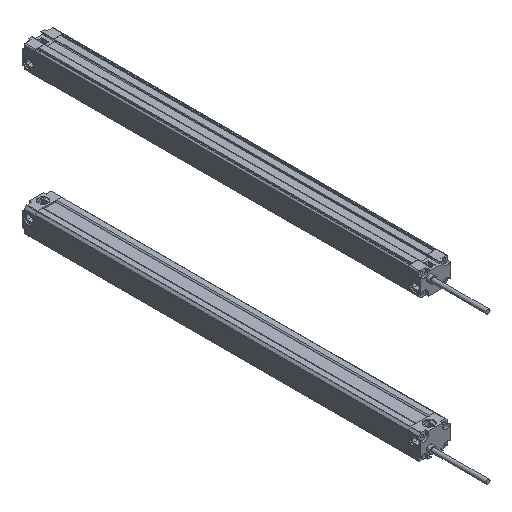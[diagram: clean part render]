
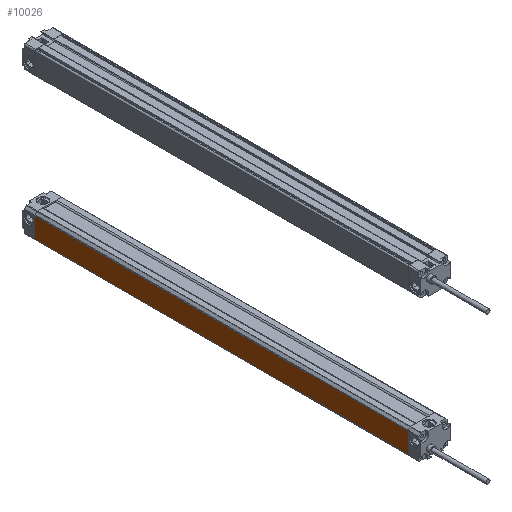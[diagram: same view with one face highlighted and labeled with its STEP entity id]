
A CAD part, isometric view. The second image highlights one B-rep face of the part: STEP entity #10026.
In plain terms, the highlighted planar face has unit normal (-1, 0, 0).
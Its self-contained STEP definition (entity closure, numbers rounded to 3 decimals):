
#272 = DIRECTION ( 'NONE',  ( 0., 1., 0. ) ) ;
#512 = VECTOR ( 'NONE', #9431, 1000. ) ;
#853 = LINE ( 'NONE', #6981, #2736 ) ;
#1186 = CARTESIAN_POINT ( 'NONE',  ( -12.5, 0., 8.293 ) ) ;
#1422 = LINE ( 'NONE', #9572, #512 ) ;
#1956 = CARTESIAN_POINT ( 'NONE',  ( -12.5, -320., 8.293 ) ) ;
#2395 = ORIENTED_EDGE ( 'NONE', *, *, #6901, .T. ) ;
#2736 = VECTOR ( 'NONE', #272, 1000. ) ;
#2754 = PLANE ( 'NONE',  #6771 ) ;
#2781 = DIRECTION ( 'NONE',  ( 0., 0., 1. ) ) ;
#2818 = CARTESIAN_POINT ( 'NONE',  ( -12.5, -320., -9.2 ) ) ;
#2819 = ORIENTED_EDGE ( 'NONE', *, *, #6266, .F. ) ;
#3184 = CARTESIAN_POINT ( 'NONE',  ( -12.5, 0., -9.2 ) ) ;
#3252 = VERTEX_POINT ( 'NONE', #3184 ) ;
#3392 = LINE ( 'NONE', #2818, #4331 ) ;
#3924 = VERTEX_POINT ( 'NONE', #9464 ) ;
#4331 = VECTOR ( 'NONE', #6306, 1000. ) ;
#4425 = CARTESIAN_POINT ( 'NONE',  ( -12.5, -320., -9.2 ) ) ;
#4776 = EDGE_CURVE ( 'NONE', #3252, #10524, #1422, .T. ) ;
#5501 = CARTESIAN_POINT ( 'NONE',  ( -12.5, -320., -9.2 ) ) ;
#6266 = EDGE_CURVE ( 'NONE', #8768, #3252, #853, .T. ) ;
#6286 = LINE ( 'NONE', #1956, #10149 ) ;
#6306 = DIRECTION ( 'NONE',  ( 0., 0., 1. ) ) ;
#6771 = AXIS2_PLACEMENT_3D ( 'NONE', #4425, #7035, #2781 ) ;
#6901 = EDGE_CURVE ( 'NONE', #8768, #3924, #3392, .T. ) ;
#6936 = ORIENTED_EDGE ( 'NONE', *, *, #9586, .T. ) ;
#6981 = CARTESIAN_POINT ( 'NONE',  ( -12.5, -320., -9.2 ) ) ;
#7035 = DIRECTION ( 'NONE',  ( -1., 0., 0. ) ) ;
#7159 = EDGE_LOOP ( 'NONE', ( #10642, #2819, #2395, #6936 ) ) ;
#8768 = VERTEX_POINT ( 'NONE', #5501 ) ;
#9431 = DIRECTION ( 'NONE',  ( 0., 0., 1. ) ) ;
#9464 = CARTESIAN_POINT ( 'NONE',  ( -12.5, -320., 8.293 ) ) ;
#9572 = CARTESIAN_POINT ( 'NONE',  ( -12.5, 0., -9.2 ) ) ;
#9586 = EDGE_CURVE ( 'NONE', #3924, #10524, #6286, .T. ) ;
#9657 = FACE_OUTER_BOUND ( 'NONE', #7159, .T. ) ;
#10026 = ADVANCED_FACE ( 'NONE', ( #9657 ), #2754, .T. ) ;
#10149 = VECTOR ( 'NONE', #10362, 1000. ) ;
#10362 = DIRECTION ( 'NONE',  ( 0., 1., 0. ) ) ;
#10524 = VERTEX_POINT ( 'NONE', #1186 ) ;
#10642 = ORIENTED_EDGE ( 'NONE', *, *, #4776, .F. ) ;
